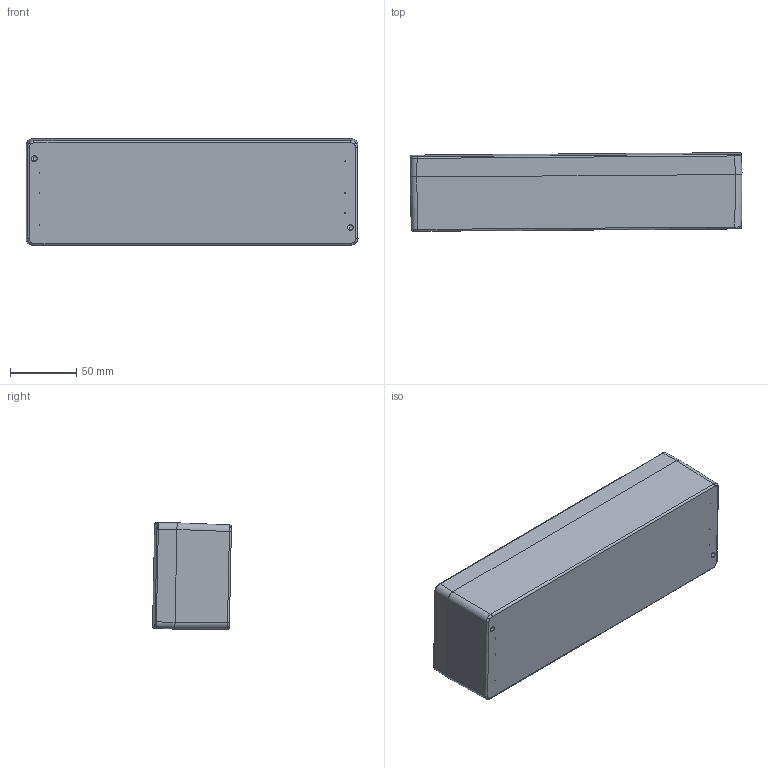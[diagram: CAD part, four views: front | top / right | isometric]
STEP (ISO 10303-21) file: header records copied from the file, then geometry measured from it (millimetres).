
FILE_DESCRIPTION (( 'STEP AP214' ), '1' );
FILE_NAME ('Zag 8 Assembly.STEP', '2016-05-03T07:57:43', ( '' ), ( '' ), 'SwSTEP 2.0', 'SolidWorks 2015', '' );
FILE_SCHEMA (( 'AUTOMOTIVE_DESIGN' ));
Length unit declared in the file: millimetre
Products named in the file (4): pan cross head_am_B18.6.7M - M4 x 0.7 x 16 Type I Cross Recessed PHMS --16C; Zag 8 Lid; Zag 8 Body; Zag 8 Assembly
Assembly tree (6 placements, depth 2):
  Zag 8 Assembly
    Zag 8 Body
    Zag 8 Lid
    pan cross head_am_B18.6.7M - M4 x 0.7 x 16 Type I Cross Recessed PHMS --16C  x4
Bounding box: 250 x 59.36 x 80.21 mm (x, y, z)
Volume: 227924.8 mm3; surface area: 155351.9 mm2
Topology: 6 solids, 6 shells, 482 faces, 1163 edges, 716 vertices
Faces by surface type: plane 186, cylinder 124, cone 96, torus 49, bspline 18, sphere 9
Entity records: 12935 total; most frequent: CARTESIAN_POINT 2708, DIRECTION 2179, ORIENTED_EDGE 2000, EDGE_CURVE 1000, AXIS2_PLACEMENT_3D 840, VERTEX_POINT 626, VECTOR 499, LINE 499
